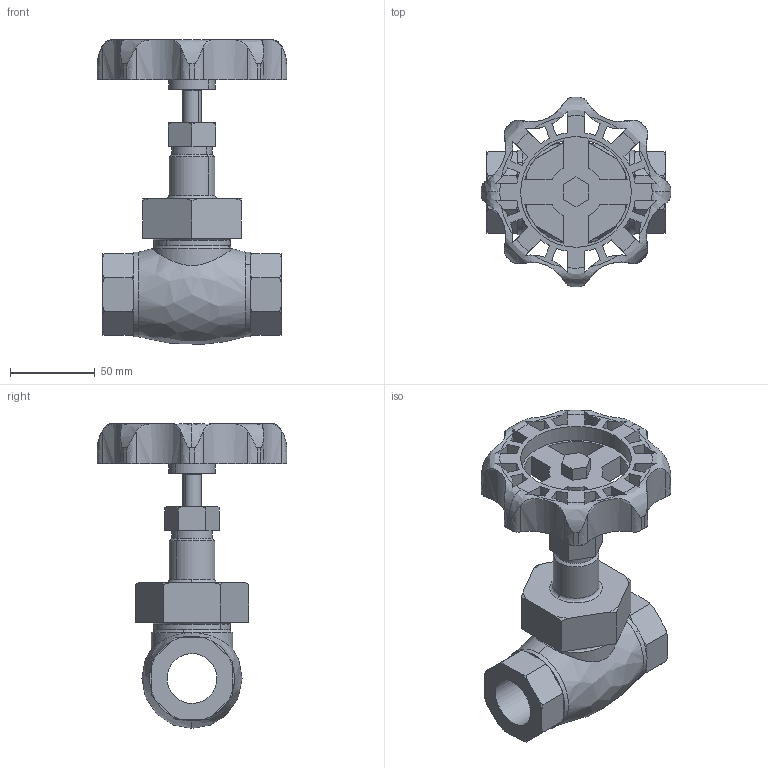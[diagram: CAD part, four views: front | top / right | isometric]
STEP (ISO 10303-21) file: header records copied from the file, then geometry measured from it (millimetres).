
FILE_DESCRIPTION((''),'2;1');
FILE_NAME('','2022-09-15T15:24:52',(''),(''),'','CADfix','');
FILE_SCHEMA(('AUTOMOTIVE_DESIGN { 1 0 10303 214 1 1 1 1 }'));
Length unit declared in the file: millimetre
Bounding box: 111.73 x 111.72 x 179.32 mm (x, y, z)
Volume: 385598.1 mm3; surface area: 83787.1 mm2
Topology: 1 solids, 1 shells, 259 faces, 819 edges, 554 vertices
Faces by surface type: bspline 259
Entity records: 11957 total; most frequent: CARTESIAN_POINT 7186, ORIENTED_EDGE 1638, EDGE_CURVE 819, VERTEX_POINT 554, B_SPLINE_CURVE_WITH_KNOTS 477, QUASI_UNIFORM_CURVE 318, EDGE_LOOP 293, FACE_OUTER_BOUND 259
